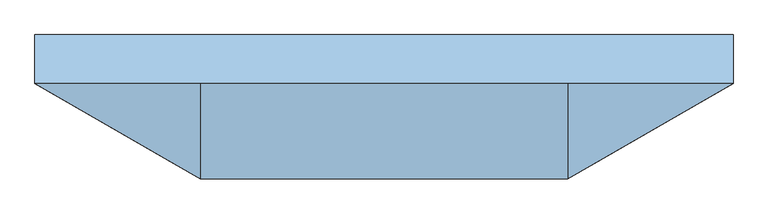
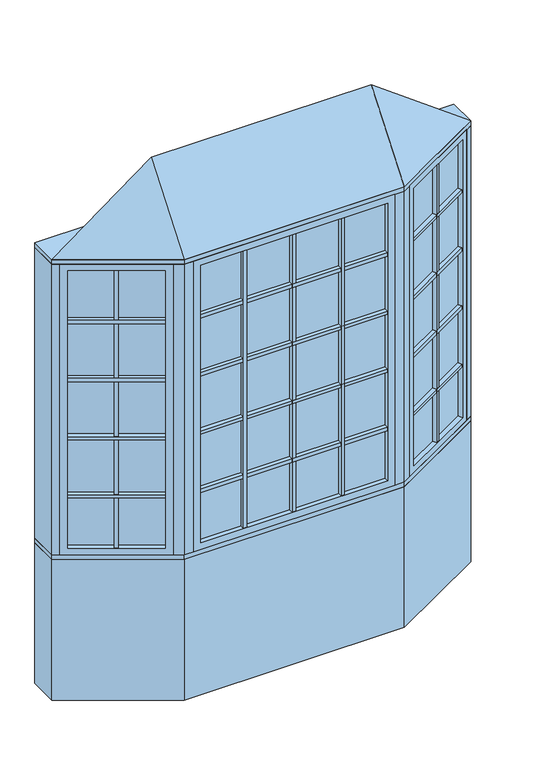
"""IFC4 building model written with IfcOpenShell, lengths in millimetres: window geometry, Pollard_Windows_Tudor Casement Bows and Bays : AML-BAY 30 AFR0516-12-500_GC."""

from ifc_helpers import new_model, si_unit, frame, origin, origin_with_axes, place, context, project, spatial, polyline, outline, extrude, faceted_brep, source, transform, mapped, element, save


def window_df56da20(model_context):
    return source(origin(), model_context, "Body", "SolidModel", [
        extrude(outline(polyline([(645.7305346, -327.3537343), (634.7305346, -308.3011754), (1015.6135794, -88.3982469), (1026.6135794, -107.4508058), (645.7305346, -327.3537343)])), frame((0.0, 0.0, 1110.998), z_axis=(0.0, 0.0, 1.0), x_axis=(1.0, 0.0, 0.0)), (0.0, 0.0, 1.0), 18.0),
        extrude(outline(polyline([(632.1905346, -303.9017664), (621.1905346, -284.8492075), (1002.0735794, -64.946279), (1013.0735794, -83.9988379), (632.1905346, -303.9017664)])), frame((0.0, 0.0, 1110.998), z_axis=(0.0, 0.0, 1.0), x_axis=(1.0, 0.0, 0.0)), (0.0, 0.0, 1.0), 18.0),
        extrude(outline(polyline([(645.7305346, -327.3537343), (634.7305346, -308.3011754), (1015.6135794, -88.3982469), (1026.6135794, -107.4508058), (645.7305346, -327.3537343)])), frame((0.0, 0.0, 1430.998), z_axis=(0.0, 0.0, 1.0), x_axis=(1.0, 0.0, 0.0)), (0.0, 0.0, 1.0), 18.0),
        extrude(outline(polyline([(632.1905346, -303.9017664), (621.1905346, -284.8492075), (1002.0735794, -64.946279), (1013.0735794, -83.9988379), (632.1905346, -303.9017664)])), frame((0.0, 0.0, 1430.998), z_axis=(0.0, 0.0, 1.0), x_axis=(1.0, 0.0, 0.0)), (0.0, 0.0, 1.0), 18.0),
        extrude(outline(polyline([(645.7305346, -327.3537343), (634.7305346, -308.3011754), (1015.6135794, -88.3982469), (1026.6135794, -107.4508058), (645.7305346, -327.3537343)])), frame((0.0, 0.0, 1750.998), z_axis=(0.0, 0.0, 1.0), x_axis=(1.0, 0.0, 0.0)), (0.0, 0.0, 1.0), 18.0),
        extrude(outline(polyline([(632.1905346, -303.9017664), (621.1905346, -284.8492075), (1002.0735794, -64.946279), (1013.0735794, -83.9988379), (632.1905346, -303.9017664)])), frame((0.0, 0.0, 1750.998), z_axis=(0.0, 0.0, 1.0), x_axis=(1.0, 0.0, 0.0)), (0.0, 0.0, 1.0), 18.0),
        extrude(outline(polyline([(645.7305346, -327.3537343), (634.7305346, -308.3011754), (1015.6135794, -88.3982469), (1026.6135794, -107.4508058), (645.7305346, -327.3537343)])), frame((0.0, 0.0, 2070.998), z_axis=(0.0, 0.0, 1.0), x_axis=(1.0, 0.0, 0.0)), (0.0, 0.0, 1.0), 18.0),
        extrude(outline(polyline([(632.1905346, -303.9017664), (621.1905346, -284.8492075), (1002.0735794, -64.946279), (1013.0735794, -83.9988379), (632.1905346, -303.9017664)])), frame((0.0, 0.0, 2070.998), z_axis=(0.0, 0.0, 1.0), x_axis=(1.0, 0.0, 0.0)), (0.0, 0.0, 1.0), 18.0),
        extrude(outline(polyline([(832.9662856, -193.8497112), (843.9662856, -212.9022701), (828.3778284, -221.9022701), (817.3778284, -202.8497112), (832.9662856, -193.8497112)])), frame((0.0, 0.0, 835.8628), z_axis=(0.0, 0.0, 1.0), x_axis=(1.0, 0.0, 0.0)), (0.0, 0.0, 1.0), 1528.2704),
        extrude(outline(polyline([(830.4262856, -189.4503021), (814.8378284, -198.4503021), (803.8378284, -179.3977432), (819.4262856, -170.3977432), (830.4262856, -189.4503021)])), frame((0.0, 0.0, 835.8628), z_axis=(0.0, 0.0, 1.0), x_axis=(1.0, 0.0, 0.0)), (0.0, 0.0, 1.0), 1528.2704),
        extrude(outline(polyline([(1026.612102, -82.0482469), (623.7320119, -314.6511754), (621.1920119, -310.2517664), (1024.072102, -77.6488379), (1026.612102, -82.0482469)])), frame((0.0, 0.0, 823.1628), z_axis=(0.0, 0.0, 1.0), x_axis=(1.0, 0.0, 0.0)), (0.0, 0.0, 1.0), 1553.6704),
        faceted_brep([(1015.6135794, -88.3982469, 835.8628), (1028.3135794, -110.3952922, 835.8628), (1028.3135794, -110.3952922, 2364.1332), (1015.6135794, -88.3982469, 2364.1332), (1024.072102, -77.6488379, 823.1628), (1026.612102, -82.0482469, 823.1628), (1026.612102, -82.0482469, 2376.8332), (1024.072102, -77.6488379, 2376.8332), (1000.3735794, -62.0017926, 835.8628), (1013.0735794, -83.9988379, 835.8628), (1013.0735794, -83.9988379, 2364.1332), (1000.3735794, -62.0017926, 2364.1332), (1059.3734073, -92.4628922, 799.998), (1031.4334073, -44.0693926, 799.998), (1031.4334073, -44.0693926, 2399.998), (1059.3734073, -92.4628922, 2399.998), (647.4305346, -330.2982207, 2364.1332), (634.7305346, -308.3011754, 2364.1332), (623.7320119, -314.6511754, 2376.8332), (621.1920119, -310.2517664, 2376.8332), (632.1905346, -303.9017664, 2364.1332), (619.4905346, -281.9047211, 2364.1332), (588.4307067, -299.8371211, 2399.998), (616.3707067, -348.2306207, 2399.998), (647.4305346, -330.2982207, 835.8628), (634.7305346, -308.3011754, 835.8628), (623.7320119, -314.6511754, 823.1628), (621.1920119, -310.2517664, 823.1628), (632.1905346, -303.9017664, 835.8628), (619.4905346, -281.9047211, 835.8628), (588.4307067, -299.8371211, 799.998), (616.3707067, -348.2306207, 799.998)], [[[0, 1, 2, 3]], [[4, 5, 6, 7]], [[8, 9, 10, 11]], [[12, 13, 14, 15]], [[3, 2, 16, 17]], [[7, 6, 18, 19]], [[11, 10, 20, 21]], [[15, 14, 22, 23]], [[17, 16, 24, 25]], [[19, 18, 26, 27]], [[21, 20, 28, 29]], [[23, 22, 30, 31]], [[25, 24, 1, 0]], [[5, 26, 18, 6], [3, 17, 25, 0]], [[27, 26, 5, 4]], [[7, 19, 27, 4], [9, 28, 20, 10]], [[29, 28, 9, 8]], [[13, 30, 22, 14], [11, 21, 29, 8]], [[31, 30, 13, 12]], [[15, 23, 31, 12], [1, 24, 16, 2]]]),
        extrude(outline(polyline([(263.4524182, -347.8306207), (263.4524182, -369.8306207), (245.4524182, -369.8306207), (245.4524182, -347.8306207), (263.4524182, -347.8306207)])), frame((0.0, 0.0, 835.8628), z_axis=(0.0, 0.0, 1.0), x_axis=(1.0, 0.0, 0.0)), (0.0, 0.0, 1.0), 1528.2704),
        extrude(outline(polyline([(263.4524182, -342.7506207), (245.4524182, -342.7506207), (245.4524182, -320.7506207), (263.4524182, -320.7506207), (263.4524182, -342.7506207)])), frame((0.0, 0.0, 835.8628), z_axis=(0.0, 0.0, 1.0), x_axis=(1.0, 0.0, 0.0)), (0.0, 0.0, 1.0), 1528.2704),
        extrude(outline(polyline([(-245.4524182, -347.8306207), (-245.4524182, -369.8306207), (-263.4524182, -369.8306207), (-263.4524182, -347.8306207), (-245.4524182, -347.8306207)])), frame((0.0, 0.0, 835.8628), z_axis=(0.0, 0.0, 1.0), x_axis=(1.0, 0.0, 0.0)), (0.0, 0.0, 1.0), 1528.2704),
        extrude(outline(polyline([(-245.4524182, -342.7506207), (-263.4524182, -342.7506207), (-263.4524182, -320.7506207), (-245.4524182, -320.7506207), (-245.4524182, -342.7506207)])), frame((0.0, 0.0, 835.8628), z_axis=(0.0, 0.0, 1.0), x_axis=(1.0, 0.0, 0.0)), (0.0, 0.0, 1.0), 1528.2704),
        extrude(outline(polyline([(-487.2046365, -369.8306207), (-487.2046365, -347.8306207), (487.2046365, -347.8306207), (487.2046365, -369.8306207), (-487.2046365, -369.8306207)])), frame((0.0, 0.0, 1110.998), z_axis=(0.0, 0.0, 1.0), x_axis=(1.0, 0.0, 0.0)), (0.0, 0.0, 1.0), 18.0),
        extrude(outline(polyline([(-487.2046365, -342.7506207), (-487.2046365, -320.7506207), (487.2046365, -320.7506207), (487.2046365, -342.7506207), (-487.2046365, -342.7506207)])), frame((0.0, 0.0, 1110.998), z_axis=(0.0, 0.0, 1.0), x_axis=(1.0, 0.0, 0.0)), (0.0, 0.0, 1.0), 18.0),
        extrude(outline(polyline([(-487.2046365, -369.8306207), (-487.2046365, -347.8306207), (487.2046365, -347.8306207), (487.2046365, -369.8306207), (-487.2046365, -369.8306207)])), frame((0.0, 0.0, 1430.998), z_axis=(0.0, 0.0, 1.0), x_axis=(1.0, 0.0, 0.0)), (0.0, 0.0, 1.0), 18.0),
        extrude(outline(polyline([(-487.2046365, -342.7506207), (-487.2046365, -320.7506207), (487.2046365, -320.7506207), (487.2046365, -342.7506207), (-487.2046365, -342.7506207)])), frame((0.0, 0.0, 1430.998), z_axis=(0.0, 0.0, 1.0), x_axis=(1.0, 0.0, 0.0)), (0.0, 0.0, 1.0), 18.0),
        extrude(outline(polyline([(-487.2046365, -369.8306207), (-487.2046365, -347.8306207), (487.2046365, -347.8306207), (487.2046365, -369.8306207), (-487.2046365, -369.8306207)])), frame((0.0, 0.0, 1750.998), z_axis=(0.0, 0.0, 1.0), x_axis=(1.0, 0.0, 0.0)), (0.0, 0.0, 1.0), 18.0),
        extrude(outline(polyline([(-487.2046365, -342.7506207), (-487.2046365, -320.7506207), (487.2046365, -320.7506207), (487.2046365, -342.7506207), (-487.2046365, -342.7506207)])), frame((0.0, 0.0, 1750.998), z_axis=(0.0, 0.0, 1.0), x_axis=(1.0, 0.0, 0.0)), (0.0, 0.0, 1.0), 18.0),
        extrude(outline(polyline([(-1026.6135794, -107.4508058), (-1015.6135794, -88.3982469), (-634.7305346, -308.3011754), (-645.7305346, -327.3537343), (-1026.6135794, -107.4508058)])), frame((0.0, 0.0, 1110.998), z_axis=(0.0, 0.0, 1.0), x_axis=(1.0, 0.0, 0.0)), (0.0, 0.0, 1.0), 18.0),
        extrude(outline(polyline([(-1013.0735794, -83.9988379), (-1002.0735794, -64.946279), (-621.1905346, -284.8492075), (-632.1905346, -303.9017664), (-1013.0735794, -83.9988379)])), frame((0.0, 0.0, 1110.998), z_axis=(0.0, 0.0, 1.0), x_axis=(1.0, 0.0, 0.0)), (0.0, 0.0, 1.0), 18.0),
        extrude(outline(polyline([(-1026.6135794, -107.4508058), (-1015.6135794, -88.3982469), (-634.7305346, -308.3011754), (-645.7305346, -327.3537343), (-1026.6135794, -107.4508058)])), frame((0.0, 0.0, 1430.998), z_axis=(0.0, 0.0, 1.0), x_axis=(1.0, 0.0, 0.0)), (0.0, 0.0, 1.0), 18.0),
        extrude(outline(polyline([(-1013.0735794, -83.9988379), (-1002.0735794, -64.946279), (-621.1905346, -284.8492075), (-632.1905346, -303.9017664), (-1013.0735794, -83.9988379)])), frame((0.0, 0.0, 1430.998), z_axis=(0.0, 0.0, 1.0), x_axis=(1.0, 0.0, 0.0)), (0.0, 0.0, 1.0), 18.0),
        extrude(outline(polyline([(-1026.6135794, -107.4508058), (-1015.6135794, -88.3982469), (-634.7305346, -308.3011754), (-645.7305346, -327.3537343), (-1026.6135794, -107.4508058)])), frame((0.0, 0.0, 1750.998), z_axis=(0.0, 0.0, 1.0), x_axis=(1.0, 0.0, 0.0)), (0.0, 0.0, 1.0), 18.0),
        extrude(outline(polyline([(-1013.0735794, -83.9988379), (-1002.0735794, -64.946279), (-621.1905346, -284.8492075), (-632.1905346, -303.9017664), (-1013.0735794, -83.9988379)])), frame((0.0, 0.0, 1750.998), z_axis=(0.0, 0.0, 1.0), x_axis=(1.0, 0.0, 0.0)), (0.0, 0.0, 1.0), 18.0),
        extrude(outline(polyline([(-1026.6135794, -107.4508058), (-1015.6135794, -88.3982469), (-634.7305346, -308.3011754), (-645.7305346, -327.3537343), (-1026.6135794, -107.4508058)])), frame((0.0, 0.0, 2070.998), z_axis=(0.0, 0.0, 1.0), x_axis=(1.0, 0.0, 0.0)), (0.0, 0.0, 1.0), 18.0),
        extrude(outline(polyline([(-1013.0735794, -83.9988379), (-1002.0735794, -64.946279), (-621.1905346, -284.8492075), (-632.1905346, -303.9017664), (-1013.0735794, -83.9988379)])), frame((0.0, 0.0, 2070.998), z_axis=(0.0, 0.0, 1.0), x_axis=(1.0, 0.0, 0.0)), (0.0, 0.0, 1.0), 18.0),
        extrude(outline(polyline([(-487.2046365, -369.8306207), (-487.2046365, -347.8306207), (487.2046365, -347.8306207), (487.2046365, -369.8306207), (-487.2046365, -369.8306207)])), frame((0.0, 0.0, 2070.998), z_axis=(0.0, 0.0, 1.0), x_axis=(1.0, 0.0, 0.0)), (0.0, 0.0, 1.0), 18.0),
        extrude(outline(polyline([(-487.2046365, -342.7506207), (-487.2046365, -320.7506207), (487.2046365, -320.7506207), (487.2046365, -342.7506207), (-487.2046365, -342.7506207)])), frame((0.0, 0.0, 2070.998), z_axis=(0.0, 0.0, 1.0), x_axis=(1.0, 0.0, 0.0)), (0.0, 0.0, 1.0), 18.0),
        extrude(outline(polyline([(-817.3778284, -202.8497112), (-828.3778284, -221.9022701), (-843.9662856, -212.9022701), (-832.9662856, -193.8497112), (-817.3778284, -202.8497112)])), frame((0.0, 0.0, 835.8628), z_axis=(0.0, 0.0, 1.0), x_axis=(1.0, 0.0, 0.0)), (0.0, 0.0, 1.0), 1528.2704),
        extrude(outline(polyline([(-814.8378284, -198.4503021), (-830.4262856, -189.4503021), (-819.4262856, -170.3977432), (-803.8378284, -179.3977432), (-814.8378284, -198.4503021)])), frame((0.0, 0.0, 835.8628), z_axis=(0.0, 0.0, 1.0), x_axis=(1.0, 0.0, 0.0)), (0.0, 0.0, 1.0), 1528.2704),
        extrude(outline(polyline([(9.0, -347.8306207), (9.0, -369.8306207), (-9.0, -369.8306207), (-9.0, -347.8306207), (9.0, -347.8306207)])), frame((0.0, 0.0, 835.8628), z_axis=(0.0, 0.0, 1.0), x_axis=(1.0, 0.0, 0.0)), (0.0, 0.0, 1.0), 1528.2704),
        extrude(outline(polyline([(9.0, -342.7506207), (-9.0, -342.7506207), (-9.0, -320.7506207), (9.0, -320.7506207), (9.0, -342.7506207)])), frame((0.0, 0.0, 835.8628), z_axis=(0.0, 0.0, 1.0), x_axis=(1.0, 0.0, 0.0)), (0.0, 0.0, 1.0), 1528.2704),
        extrude(outline(polyline([(-623.7320119, -314.6511754), (-1026.612102, -82.0482469), (-1024.072102, -77.6488379), (-621.1920119, -310.2517664), (-623.7320119, -314.6511754)])), frame((0.0, 0.0, 823.1628), z_axis=(0.0, 0.0, 1.0), x_axis=(1.0, 0.0, 0.0)), (0.0, 0.0, 1.0), 1553.6704),
        faceted_brep([(-632.1905346, -303.9017664, 2364.1332), (-619.4905346, -281.9047211, 2364.1332), (-619.4905346, -281.9047211, 835.8628), (-632.1905346, -303.9017664, 835.8628), (-623.7320119, -314.6511754, 2376.8332), (-621.1920119, -310.2517664, 2376.8332), (-621.1920119, -310.2517664, 823.1628), (-623.7320119, -314.6511754, 823.1628), (-647.4305346, -330.2982207, 2364.1332), (-634.7305346, -308.3011754, 2364.1332), (-634.7305346, -308.3011754, 835.8628), (-647.4305346, -330.2982207, 835.8628), (-588.4307067, -299.8371211, 2399.998), (-616.3707067, -348.2306207, 2399.998), (-616.3707067, -348.2306207, 799.998), (-588.4307067, -299.8371211, 799.998), (-1000.3735794, -62.0017926, 835.8628), (-1013.0735794, -83.9988379, 835.8628), (-1024.072102, -77.6488379, 823.1628), (-1026.612102, -82.0482469, 823.1628), (-1015.6135794, -88.3982469, 835.8628), (-1028.3135794, -110.3952922, 835.8628), (-1059.3734073, -92.4628922, 799.998), (-1031.4334073, -44.0693926, 799.998), (-1000.3735794, -62.0017926, 2364.1332), (-1013.0735794, -83.9988379, 2364.1332), (-1024.072102, -77.6488379, 2376.8332), (-1026.612102, -82.0482469, 2376.8332), (-1015.6135794, -88.3982469, 2364.1332), (-1028.3135794, -110.3952922, 2364.1332), (-1059.3734073, -92.4628922, 2399.998), (-1031.4334073, -44.0693926, 2399.998)], [[[0, 1, 2, 3]], [[4, 5, 6, 7]], [[8, 9, 10, 11]], [[12, 13, 14, 15]], [[3, 2, 16, 17]], [[7, 6, 18, 19]], [[11, 10, 20, 21]], [[15, 14, 22, 23]], [[17, 16, 24, 25]], [[19, 18, 26, 27]], [[21, 20, 28, 29]], [[23, 22, 30, 31]], [[15, 23, 31, 12], [1, 24, 16, 2]], [[25, 24, 1, 0]], [[5, 26, 18, 6], [3, 17, 25, 0]], [[27, 26, 5, 4]], [[7, 19, 27, 4], [9, 28, 20, 10]], [[29, 28, 9, 8]], [[13, 30, 22, 14], [11, 21, 29, 8]], [[31, 30, 13, 12]]]),
        extrude(outline(polyline([(499.9046365, -347.8306207), (-499.9046365, -347.8306207), (-499.9046365, -342.7506207), (499.9046365, -342.7506207), (499.9046365, -347.8306207)])), frame((0.0, 0.0, 823.1628), z_axis=(0.0, 0.0, 1.0), x_axis=(1.0, 0.0, 0.0)), (0.0, 0.0, 1.0), 1553.6704),
        faceted_brep([(487.2046365, -347.8306207, 835.8628), (487.2046365, -373.2306207, 835.8628), (487.2046365, -373.2306207, 2364.1332), (487.2046365, -347.8306207, 2364.1332), (499.9046365, -342.7506207, 823.1628), (499.9046365, -347.8306207, 823.1628), (499.9046365, -347.8306207, 2376.8332), (499.9046365, -342.7506207, 2376.8332), (487.2046365, -317.3506207, 835.8628), (487.2046365, -342.7506207, 835.8628), (487.2046365, -342.7506207, 2364.1332), (487.2046365, -317.3506207, 2364.1332), (523.0694365, -373.2306207, 799.998), (523.0694365, -317.3506207, 799.998), (523.0694365, -317.3506207, 2399.998), (523.0694365, -373.2306207, 2399.998), (-487.2046365, -373.2306207, 2364.1332), (-487.2046365, -347.8306207, 2364.1332), (-499.9046365, -347.8306207, 2376.8332), (-499.9046365, -342.7506207, 2376.8332), (-487.2046365, -342.7506207, 2364.1332), (-487.2046365, -317.3506207, 2364.1332), (-523.0694365, -317.3506207, 2399.998), (-523.0694365, -373.2306207, 2399.998), (-487.2046365, -373.2306207, 835.8628), (-487.2046365, -347.8306207, 835.8628), (-499.9046365, -347.8306207, 823.1628), (-499.9046365, -342.7506207, 823.1628), (-487.2046365, -342.7506207, 835.8628), (-487.2046365, -317.3506207, 835.8628), (-523.0694365, -317.3506207, 799.998), (-523.0694365, -373.2306207, 799.998)], [[[0, 1, 2, 3]], [[4, 5, 6, 7]], [[8, 9, 10, 11]], [[12, 13, 14, 15]], [[3, 2, 16, 17]], [[7, 6, 18, 19]], [[11, 10, 20, 21]], [[15, 14, 22, 23]], [[17, 16, 24, 25]], [[19, 18, 26, 27]], [[21, 20, 28, 29]], [[23, 22, 30, 31]], [[15, 23, 31, 12], [1, 24, 16, 2]], [[25, 24, 1, 0]], [[5, 26, 18, 6], [3, 17, 25, 0]], [[27, 26, 5, 4]], [[7, 19, 27, 4], [9, 28, 20, 10]], [[29, 28, 9, 8]], [[13, 30, 22, 14], [11, 21, 29, 8]], [[31, 30, 13, 12]]]),
        faceted_brep([(1090.0, -74.7806207, 2425.398), (573.0694365, -373.2306207, 2425.398), (-573.0694365, -373.2306207, 2425.398), (-1090.0, -74.7806207, 2425.398), (-573.0694365, -74.7806207, 2806.398), (573.0694365, -74.7806207, 2806.398)], [[[0, 1, 2, 3]], [[3, 2, 4]], [[2, 1, 5, 4]], [[1, 0, 5]], [[0, 3, 4, 5]]]),
        extrude(outline(polyline([(-1090.0, 77.6193793), (1090.0, 77.6193793), (1090.0, -74.7806207), (573.0694365, -373.2306207), (-573.0694365, -373.2306207), (-1090.0, -74.7806207), (-1090.0, 77.6193793)])), frame((0.0, 0.0, 2399.998), z_axis=(0.0, 0.0, 1.0), x_axis=(1.0, 0.0, 0.0)), (0.0, 0.0, 1.0), 25.4),
        extrude(outline(polyline([(-1090.0, -74.7806207), (-1090.0, 77.6193793), (-1049.1645431, 77.6193793), (-1049.1645431, -74.7806207), (-1059.3734073, -92.4628922), (-1090.0, -74.7806207)])), frame((0.0, 0.0, 799.998), z_axis=(0.0, 0.0, 1.0), x_axis=(1.0, 0.0, 0.0)), (0.0, 0.0, 1.0), 1600.0),
        extrude(outline(polyline([(1090.0, 77.6193793), (1090.0, -74.7806207), (1059.3734073, -92.4628922), (1049.1645431, -74.7806207), (1049.1645431, 77.6193793), (1090.0, 77.6193793)])), frame((0.0, 0.0, 799.998), z_axis=(0.0, 0.0, 1.0), x_axis=(1.0, 0.0, 0.0)), (0.0, 0.0, 1.0), 1600.0),
        extrude(outline(polyline([(573.0694365, -373.2306207), (523.0694365, -373.2306207), (523.0694365, -323.2306207), (559.6719769, -323.2306207), (591.3707067, -304.9293505), (616.3707067, -348.2306207), (573.0694365, -373.2306207)])), frame((0.0, 0.0, 799.998), z_axis=(0.0, 0.0, 1.0), x_axis=(1.0, 0.0, 0.0)), (0.0, 0.0, 1.0), 1600.0),
        extrude(outline(polyline([(-573.0694365, -373.2306207), (-616.3707067, -348.2306207), (-591.3707067, -304.9293505), (-559.6719769, -323.2306207), (-523.0694365, -323.2306207), (-523.0694365, -373.2306207), (-573.0694365, -373.2306207)])), frame((0.0, 0.0, 799.998), z_axis=(0.0, 0.0, 1.0), x_axis=(1.0, 0.0, 0.0)), (0.0, 0.0, 1.0), 1600.0),
        extrude(outline(polyline([(-573.0694365, -373.2306207), (-1090.0, -74.7806207), (-1090.0, 77.6193793), (-1049.1645431, 77.6193793), (-532.2339796, -220.8306207), (532.2339796, -220.8306207), (1049.1645431, 77.6193793), (1090.0, 77.6193793), (1090.0, -74.7806207), (573.0694365, -373.2306207), (-573.0694365, -373.2306207)])), frame((0.0, 0.0, 774.598), z_axis=(0.0, 0.0, 1.0), x_axis=(1.0, 0.0, 0.0)), (0.0, 0.0, 1.0), 25.4),
        extrude(outline(polyline([(-1090.0, -74.7806207), (-1090.0, 77.6193793), (-1049.1645431, 77.6193793), (-532.2339796, -220.8306207), (532.2339796, -220.8306207), (1049.1645431, 77.6193793), (1090.0, 77.6193793), (1090.0, -74.7806207), (573.0694365, -373.2306207), (-573.0694365, -373.2306207), (-1090.0, -74.7806207)])), origin_with_axes(), (0.0, 0.0, 1.0), 774.598),
    ])


if __name__ == "__main__":
    model = new_model("IFC4")
    model_context = context("Model", 3, world=origin())
    ifc_project = project(units=[si_unit("LENGTHUNIT", "METRE", prefix="MILLI")], contexts=[model_context])
    site = spatial("IfcSite", under=ifc_project)
    building = spatial("IfcBuilding", under=site)
    placement = place(None, origin())
    window_shape = window_df56da20(model_context)
    element("IfcWindow", 1, ObjectType="Pollard_Windows_Tudor Casement Bows and Bays : AML-BAY 30 AFR0516-12-500_GC", at=placement, inside=building, context=model_context, shape_type="MappedRepresentation", body=[
        mapped(window_shape, transform((0.0, 0.0, 0.0), x_axis=(1.0, 0.0, 0.0), y_axis=(0.0, 1.0, 0.0), z_axis=(0.0, 0.0, 1.0))),
    ])
    save(model, "model.ifc")
